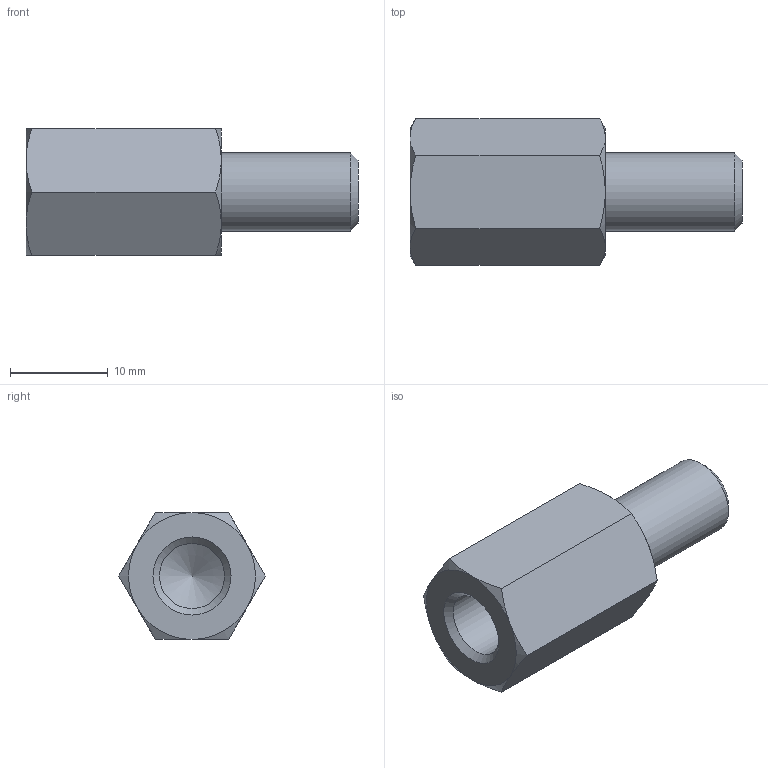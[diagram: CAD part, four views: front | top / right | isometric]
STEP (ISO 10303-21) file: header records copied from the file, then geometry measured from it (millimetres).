
FILE_DESCRIPTION( ( 'STEP AP203' ), '1' );
FILE_NAME( 'C:/Temp/Ganter_Step_05_03_2020/data/3_2/gn6220/gn6220_ni/Stainless Steel-Spacer GN 6220-NI-M8-20-B.stp', '2020-03-13T05:43:17', ( 'License CC BY-ND 4.0' ), ( 'CADENAS' ), ' ', 'PARTsolutions', ' ' );
FILE_SCHEMA( ( 'CONFIG_CONTROL_DESIGN' ) );
Length unit declared in the file: millimetre
Products named in the file (1): _Stainless Steel-Spacer GN 6220-NI-M8-20-B
Bounding box: 34 x 15.01 x 13 mm (x, y, z)
Volume: 2890 mm3; surface area: 1939.4 mm2
Topology: 1 solids, 1 shells, 26 faces, 55 edges, 32 vertices
Faces by surface type: cone 15, plane 9, cylinder 2
Full cylindrical faces by diameter (mm): 6.647 x1, 8 x1
Entity records: 778 total; most frequent: CARTESIAN_POINT 242, DIRECTION 96, ORIENTED_EDGE 96, EDGE_CURVE 48, AXIS2_PLACEMENT_3D 45, EDGE_LOOP 32, VERTEX_POINT 31, FACE_OUTER_BOUND 28
